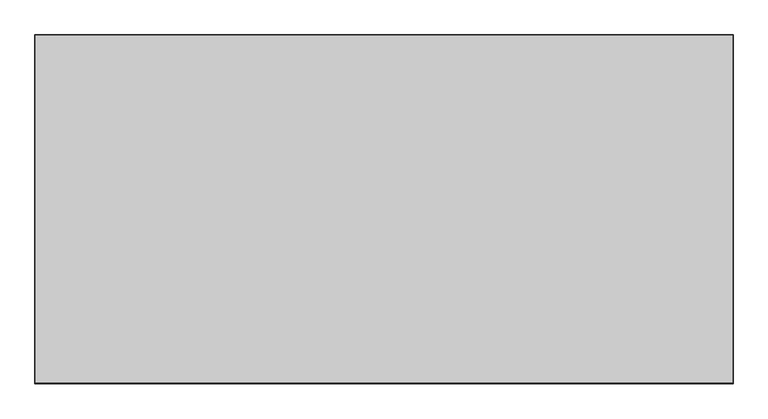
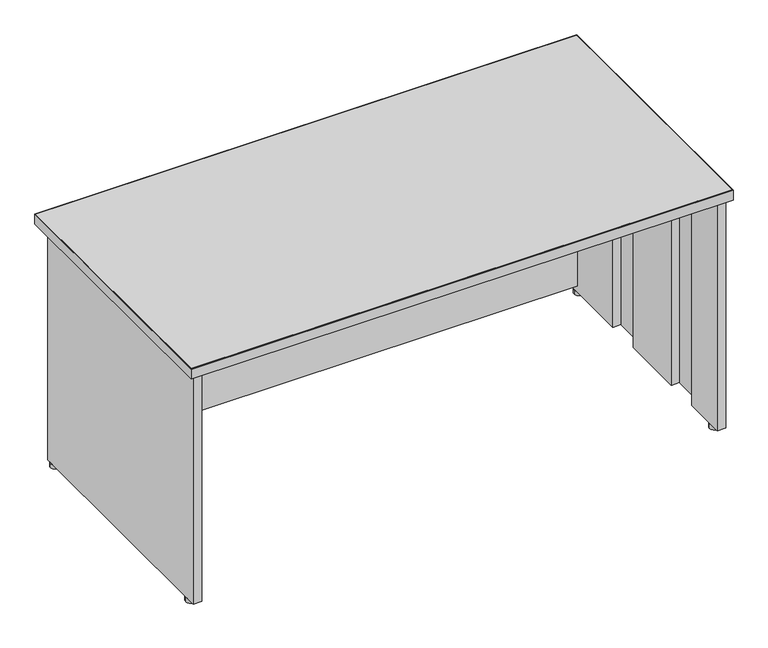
"""IFC4 building model written with IfcOpenShell, lengths in millimetres: furniture geometry, Steelcase - Kick Freestanding - Desk Shell - Full Height Modesty Panel : 30D x 60W."""

from ifc_helpers import new_model, si_unit, point, frame, frame_2d, origin, origin_with_axes, place, context, project, spatial, polyline, circle_curve, trimmed, segment, composite_curve, outline, extrude, source, transform, mapped, element, save


def furniture_a330ba33(model_context):
    return source(origin(), model_context, "Body", "SweptSolid", [
        extrude(outline(polyline([(677.0450425, -999.9647597), (677.0450425, -974.5647604), (2126.6738425, -974.5647604), (2126.6738425, -999.9647597), (677.0450425, -999.9647597)])), frame((0.0, 0.0, 31.242), z_axis=(0.0, 0.0, 1.0), x_axis=(1.0, 0.0, 0.0)), (0.0, 0.0, 1.0), 663.702),
        extrude(outline(composite_curve([segment(trimmed(circle_curve(frame_2d((665.1357759, -986.9367877)), 13.97), [point((651.1657759, -986.9367877))], [point((679.1057759, -986.9367877))], False, "CARTESIAN"), True, "CONTINUOUS"), segment(trimmed(circle_curve(frame_2d((665.1357759, -986.9367877)), 13.97), [point((679.1057759, -986.9367877))], [point((651.1657759, -986.9367877))], False, "CARTESIAN"), True, "CONTINUOUS")], self_intersect=False)), origin_with_axes(), (0.0, 0.0, 1.0), 12.446),
        extrude(outline(composite_curve([segment(trimmed(circle_curve(frame_2d((665.1357759, -1646.0441481)), 13.97), [point((651.1657759, -1646.0441481))], [point((679.1057759, -1646.0441481))], False, "CARTESIAN"), True, "CONTINUOUS"), segment(trimmed(circle_curve(frame_2d((665.1357759, -1646.0441481)), 13.97), [point((679.1057759, -1646.0441481))], [point((651.1657759, -1646.0441481))], False, "CARTESIAN"), True, "CONTINUOUS")], self_intersect=False)), origin_with_axes(), (0.0, 0.0, 1.0), 12.446),
        extrude(outline(polyline([(2126.6738425, -1172.2529604), (2126.6738425, -972.7867604), (2151.1594421, -972.7867604), (2151.1594421, -1680.938741), (2126.6738421, -1680.938741), (2126.6738421, -1556.6311348), (2149.1020425, -1556.6311348), (2149.1020425, -1456.9107682), (2126.6738421, -1456.9107682), (2126.6738421, -1271.9733647), (2149.1020425, -1271.9733647), (2149.1020425, -1172.2529604), (2126.6738425, -1172.2529604)])), frame((0.0, 0.0, 12.446), z_axis=(0.0, 0.0, 1.0), x_axis=(1.0, 0.0, 0.0)), (0.0, 0.0, 1.0), 682.498),
        extrude(outline(polyline([(677.0450425, -1172.2529604), (654.6168425, -1172.2529604), (654.6168425, -1271.9733647), (677.0450429, -1271.9733647), (677.0450429, -1456.9107682), (654.6168425, -1456.9107682), (654.6168425, -1556.6311348), (677.0450429, -1556.6311348), (677.0450429, -1680.938741), (652.5594429, -1680.938741), (652.5594429, -972.7867604), (677.0450425, -972.7867604), (677.0450425, -1172.2529604)])), frame((0.0, 0.0, 12.446), z_axis=(0.0, 0.0, 1.0), x_axis=(1.0, 0.0, 0.0)), (0.0, 0.0, 1.0), 682.498),
        extrude(outline(polyline([(2162.8688425, -932.6293604), (2162.8688425, -1690.6669215), (640.8500425, -1690.6669215), (640.8500425, -932.6293604), (2162.8688425, -932.6293604)])), frame((0.0, 0.0, 694.944), z_axis=(0.0, 0.0, 1.0), x_axis=(1.0, 0.0, 0.0)), (0.0, 0.0, 1.0), 28.956),
        extrude(outline(polyline([(2163.8594425, -931.6387604), (2163.8594425, -1693.6387604), (639.8594425, -1693.6387604), (639.8594425, -931.6387604), (2163.8594425, -931.6387604)]), holes=[polyline([(2162.8688425, -932.6293604), (640.8500425, -932.6293604), (640.8500425, -1690.6669215), (2162.8688425, -1690.6669215), (2162.8688425, -932.6293604)])]), frame((0.0, 0.0, 694.944), z_axis=(0.0, 0.0, 1.0), x_axis=(1.0, 0.0, 0.0)), (0.0, 0.0, 1.0), 28.956),
        extrude(outline(composite_curve([segment(trimmed(circle_curve(frame_2d((2138.5831091, -1646.0441481)), 13.97), [point((2124.6131091, -1646.0441481))], [point((2152.5531091, -1646.0441481))], False, "CARTESIAN"), True, "CONTINUOUS"), segment(trimmed(circle_curve(frame_2d((2138.5831091, -1646.0441481)), 13.97), [point((2152.5531091, -1646.0441481))], [point((2124.6131091, -1646.0441481))], False, "CARTESIAN"), True, "CONTINUOUS")], self_intersect=False)), origin_with_axes(), (0.0, 0.0, 1.0), 12.446),
        extrude(outline(composite_curve([segment(trimmed(circle_curve(frame_2d((2138.5831091, -986.9367877)), 13.97), [point((2152.5531091, -986.9367877))], [point((2124.6131091, -986.9367877))], False, "CARTESIAN"), True, "CONTINUOUS"), segment(trimmed(circle_curve(frame_2d((2138.5831091, -986.9367877)), 13.97), [point((2124.6131091, -986.9367877))], [point((2152.5531091, -986.9367877))], False, "CARTESIAN"), True, "CONTINUOUS")], self_intersect=False)), origin_with_axes(), (0.0, 0.0, 1.0), 12.446),
    ])


if __name__ == "__main__":
    model = new_model("IFC4")
    model_context = context("Model", 3, world=origin())
    ifc_project = project(units=[si_unit("LENGTHUNIT", "METRE", prefix="MILLI")], contexts=[model_context])
    site = spatial("IfcSite", under=ifc_project)
    building = spatial("IfcBuilding", under=site)
    placement = place(None, origin())
    furniture_shape = furniture_a330ba33(model_context)
    element("IfcFurniture", 1, ObjectType="Steelcase - Kick Freestanding - Desk Shell - Full Height Modesty Panel : 30D x 60W", at=placement, inside=building, context=model_context, shape_type="MappedRepresentation", body=[
        mapped(furniture_shape, transform((0.0, 0.0, 0.0), x_axis=(1.0, 0.0, 0.0), y_axis=(0.0, 1.0, 0.0), z_axis=(0.0, 0.0, 1.0))),
    ])
    save(model, "model.ifc")
